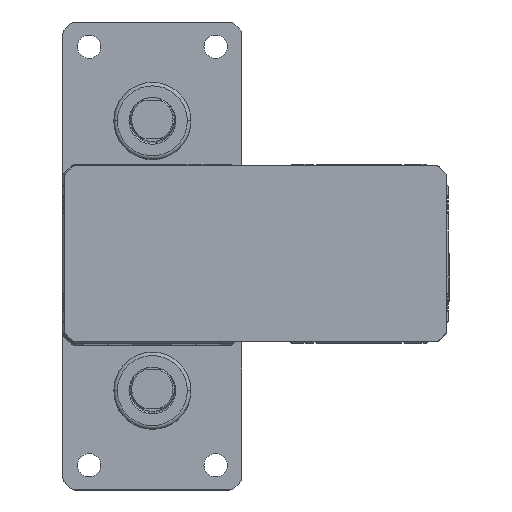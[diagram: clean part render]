
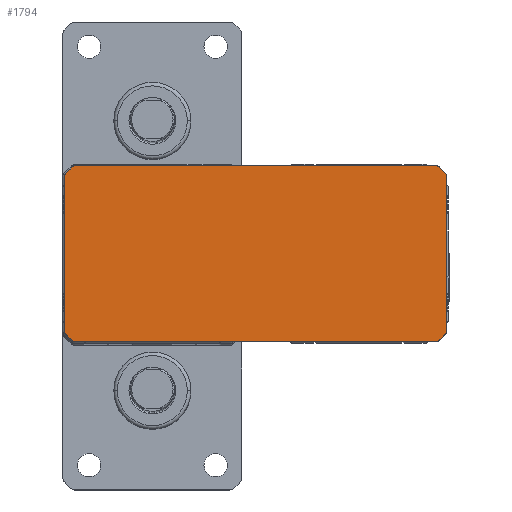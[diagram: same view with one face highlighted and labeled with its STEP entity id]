
A CAD part, top view. The second image highlights one B-rep face of the part: STEP entity #1794.
In plain terms, the highlighted planar face has unit normal (0, 0, 1).
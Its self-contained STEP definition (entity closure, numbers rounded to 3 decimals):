
#105 = DIRECTION ( 'NONE',  ( 0., 0., 1. ) ) ;
#1016 = CARTESIAN_POINT ( 'NONE',  ( 103., -32., 444. ) ) ;
#1794 = ADVANCED_FACE ( 'NONE', ( #52400 ), #22391, .T. ) ;
#2366 = CARTESIAN_POINT ( 'NONE',  ( -30.5, -28., 444. ) ) ;
#2871 = EDGE_CURVE ( 'NONE', #46423, #24328, #43449, .T. ) ;
#3409 = ORIENTED_EDGE ( 'NONE', *, *, #6921, .T. ) ;
#3451 = DIRECTION ( 'NONE',  ( 0., 0., 1. ) ) ;
#3771 = VERTEX_POINT ( 'NONE', #23922 ) ;
#3988 = CARTESIAN_POINT ( 'NONE',  ( 104.061, -31.561, 444. ) ) ;
#4126 = CIRCLE ( 'NONE', #31451, 1.5 ) ;
#4745 = LINE ( 'NONE', #6274, #14420 ) ;
#6274 = CARTESIAN_POINT ( 'NONE',  ( -29.061, 31.561, 444. ) ) ;
#6385 = ORIENTED_EDGE ( 'NONE', *, *, #48585, .T. ) ;
#6554 = DIRECTION ( 'NONE',  ( 1., 0., 0. ) ) ;
#6828 = ORIENTED_EDGE ( 'NONE', *, *, #16491, .T. ) ;
#6921 = EDGE_CURVE ( 'NONE', #17654, #15988, #50007, .T. ) ;
#7110 = DIRECTION ( 'NONE',  ( 1., 0., 0. ) ) ;
#7415 = CARTESIAN_POINT ( 'NONE',  ( 103., 32., 444. ) ) ;
#8200 = EDGE_CURVE ( 'NONE', #51385, #20690, #51838, .T. ) ;
#8545 = VERTEX_POINT ( 'NONE', #42353 ) ;
#8586 = CARTESIAN_POINT ( 'NONE',  ( -28., 32., 444. ) ) ;
#9230 = VECTOR ( 'NONE', #32350, 1000. ) ;
#10336 = CIRCLE ( 'NONE', #43043, 1.5 ) ;
#10474 = EDGE_CURVE ( 'NONE', #3771, #51385, #29094, .T. ) ;
#10666 = CIRCLE ( 'NONE', #33426, 1.5 ) ;
#11113 = EDGE_CURVE ( 'NONE', #32959, #37843, #10666, .T. ) ;
#11172 = ORIENTED_EDGE ( 'NONE', *, *, #20611, .T. ) ;
#11358 = ORIENTED_EDGE ( 'NONE', *, *, #44677, .T. ) ;
#11688 = EDGE_CURVE ( 'NONE', #24328, #38175, #4126, .T. ) ;
#12054 = VECTOR ( 'NONE', #27439, 1000. ) ;
#12243 = CARTESIAN_POINT ( 'NONE',  ( 106.561, -29.061, 444. ) ) ;
#12587 = AXIS2_PLACEMENT_3D ( 'NONE', #19138, #47101, #23223 ) ;
#13348 = LINE ( 'NONE', #39319, #15922 ) ;
#13724 = CARTESIAN_POINT ( 'NONE',  ( -30.5, -28., 444. ) ) ;
#14204 = VECTOR ( 'NONE', #49316, 1000. ) ;
#14420 = VECTOR ( 'NONE', #22680, 1000. ) ;
#14527 = AXIS2_PLACEMENT_3D ( 'NONE', #22666, #50614, #26701 ) ;
#14750 = CARTESIAN_POINT ( 'NONE',  ( -31.561, -29.061, 444. ) ) ;
#15648 = DIRECTION ( 'NONE',  ( 0., 0., 1. ) ) ;
#15714 = CARTESIAN_POINT ( 'NONE',  ( -31.561, -29.061, 444. ) ) ;
#15922 = VECTOR ( 'NONE', #7110, 1000. ) ;
#15988 = VERTEX_POINT ( 'NONE', #24404 ) ;
#16441 = CARTESIAN_POINT ( 'NONE',  ( -28., 30.5, 444. ) ) ;
#16491 = EDGE_CURVE ( 'NONE', #21159, #46423, #21344, .T. ) ;
#16551 = EDGE_CURVE ( 'NONE', #8545, #17944, #49471, .T. ) ;
#16693 = VECTOR ( 'NONE', #38884, 1000. ) ;
#16769 = VERTEX_POINT ( 'NONE', #21678 ) ;
#16834 = DIRECTION ( 'NONE',  ( 0., 0., 1. ) ) ;
#17654 = VERTEX_POINT ( 'NONE', #42388 ) ;
#17725 = ORIENTED_EDGE ( 'NONE', *, *, #36818, .T. ) ;
#17944 = VERTEX_POINT ( 'NONE', #12243 ) ;
#17978 = LINE ( 'NONE', #21364, #14204 ) ;
#17997 = CARTESIAN_POINT ( 'NONE',  ( 103., 32., 444. ) ) ;
#18581 = CIRCLE ( 'NONE', #31303, 1.5 ) ;
#19138 = CARTESIAN_POINT ( 'NONE',  ( 103., -30.5, 444. ) ) ;
#19486 = EDGE_CURVE ( 'NONE', #31380, #8545, #46476, .T. ) ;
#20456 = DIRECTION ( 'NONE',  ( 0., 1., 0. ) ) ;
#20507 = DIRECTION ( 'NONE',  ( 1., 0., 0. ) ) ;
#20560 = CARTESIAN_POINT ( 'NONE',  ( -29.061, -31.561, 444. ) ) ;
#20611 = EDGE_CURVE ( 'NONE', #38175, #17654, #4745, .T. ) ;
#20690 = VERTEX_POINT ( 'NONE', #39196 ) ;
#21159 = VERTEX_POINT ( 'NONE', #38641 ) ;
#21344 = CIRCLE ( 'NONE', #39000, 1.5 ) ;
#21364 = CARTESIAN_POINT ( 'NONE',  ( -32., 28., 444. ) ) ;
#21678 = CARTESIAN_POINT ( 'NONE',  ( -32., -28., 444. ) ) ;
#22391 = PLANE ( 'NONE',  #23826 ) ;
#22666 = CARTESIAN_POINT ( 'NONE',  ( -30.5, 28., 444. ) ) ;
#22680 = DIRECTION ( 'NONE',  ( -0.707, -0.707, 0. ) ) ;
#23223 = DIRECTION ( 'NONE',  ( 1., 0., 0. ) ) ;
#23460 = ORIENTED_EDGE ( 'NONE', *, *, #24307, .T. ) ;
#23514 = VECTOR ( 'NONE', #50034, 1000. ) ;
#23826 = AXIS2_PLACEMENT_3D ( 'NONE', #13724, #28728, #29068 ) ;
#23922 = CARTESIAN_POINT ( 'NONE',  ( 107., -28., 444. ) ) ;
#24307 = EDGE_CURVE ( 'NONE', #17944, #3771, #18581, .T. ) ;
#24328 = VERTEX_POINT ( 'NONE', #8586 ) ;
#24404 = CARTESIAN_POINT ( 'NONE',  ( -32., 28., 444. ) ) ;
#24586 = CARTESIAN_POINT ( 'NONE',  ( 105.5, -28., 444. ) ) ;
#26192 = CARTESIAN_POINT ( 'NONE',  ( 107., 28., 444. ) ) ;
#26701 = DIRECTION ( 'NONE',  ( 1., 0., 0. ) ) ;
#27439 = DIRECTION ( 'NONE',  ( -0.707, 0.707, 0. ) ) ;
#27863 = CARTESIAN_POINT ( 'NONE',  ( 103., 30.5, 444. ) ) ;
#28540 = CARTESIAN_POINT ( 'NONE',  ( 107., -28., 444. ) ) ;
#28620 = DIRECTION ( 'NONE',  ( 1., 0., 0. ) ) ;
#28728 = DIRECTION ( 'NONE',  ( 0., 0., 1. ) ) ;
#28956 = ORIENTED_EDGE ( 'NONE', *, *, #2871, .T. ) ;
#29068 = DIRECTION ( 'NONE',  ( 1., 0., 0. ) ) ;
#29094 = LINE ( 'NONE', #28540, #49048 ) ;
#29138 = CARTESIAN_POINT ( 'NONE',  ( -29.061, 31.561, 444. ) ) ;
#30805 = DIRECTION ( 'NONE',  ( 0., 0., 1. ) ) ;
#31151 = LINE ( 'NONE', #14750, #16693 ) ;
#31303 = AXIS2_PLACEMENT_3D ( 'NONE', #24586, #105, #28620 ) ;
#31380 = VERTEX_POINT ( 'NONE', #1016 ) ;
#31451 = AXIS2_PLACEMENT_3D ( 'NONE', #16441, #44407, #20507 ) ;
#31848 = DIRECTION ( 'NONE',  ( 1., 0., 0. ) ) ;
#32216 = ORIENTED_EDGE ( 'NONE', *, *, #8200, .T. ) ;
#32350 = DIRECTION ( 'NONE',  ( 0.707, 0.707, 0. ) ) ;
#32959 = VERTEX_POINT ( 'NONE', #20560 ) ;
#33426 = AXIS2_PLACEMENT_3D ( 'NONE', #40776, #16834, #44809 ) ;
#34364 = EDGE_CURVE ( 'NONE', #16769, #44185, #10336, .T. ) ;
#35398 = ORIENTED_EDGE ( 'NONE', *, *, #42746, .T. ) ;
#35740 = ORIENTED_EDGE ( 'NONE', *, *, #16551, .T. ) ;
#36818 = EDGE_CURVE ( 'NONE', #37843, #31380, #13348, .T. ) ;
#37843 = VERTEX_POINT ( 'NONE', #46913 ) ;
#38175 = VERTEX_POINT ( 'NONE', #29138 ) ;
#38226 = ORIENTED_EDGE ( 'NONE', *, *, #34364, .T. ) ;
#38475 = ORIENTED_EDGE ( 'NONE', *, *, #11113, .T. ) ;
#38641 = CARTESIAN_POINT ( 'NONE',  ( 104.061, 31.561, 444. ) ) ;
#38884 = DIRECTION ( 'NONE',  ( 0.707, -0.707, 0. ) ) ;
#39000 = AXIS2_PLACEMENT_3D ( 'NONE', #27863, #3451, #31848 ) ;
#39196 = CARTESIAN_POINT ( 'NONE',  ( 106.561, 29.061, 444. ) ) ;
#39319 = CARTESIAN_POINT ( 'NONE',  ( -28., -32., 444. ) ) ;
#39583 = CARTESIAN_POINT ( 'NONE',  ( 105.5, 28., 444. ) ) ;
#40500 = ORIENTED_EDGE ( 'NONE', *, *, #10474, .T. ) ;
#40669 = ORIENTED_EDGE ( 'NONE', *, *, #11688, .T. ) ;
#40776 = CARTESIAN_POINT ( 'NONE',  ( -28., -30.5, 444. ) ) ;
#42353 = CARTESIAN_POINT ( 'NONE',  ( 104.061, -31.561, 444. ) ) ;
#42388 = CARTESIAN_POINT ( 'NONE',  ( -31.561, 29.061, 444. ) ) ;
#42746 = EDGE_CURVE ( 'NONE', #15988, #16769, #17978, .T. ) ;
#42758 = LINE ( 'NONE', #51363, #12054 ) ;
#43043 = AXIS2_PLACEMENT_3D ( 'NONE', #2366, #30805, #6554 ) ;
#43449 = LINE ( 'NONE', #17997, #23514 ) ;
#43583 = DIRECTION ( 'NONE',  ( 1., 0., 0. ) ) ;
#44185 = VERTEX_POINT ( 'NONE', #15714 ) ;
#44403 = AXIS2_PLACEMENT_3D ( 'NONE', #39583, #15648, #43583 ) ;
#44407 = DIRECTION ( 'NONE',  ( 0., 0., 1. ) ) ;
#44677 = EDGE_CURVE ( 'NONE', #20690, #21159, #42758, .T. ) ;
#44809 = DIRECTION ( 'NONE',  ( 1., 0., 0. ) ) ;
#46423 = VERTEX_POINT ( 'NONE', #7415 ) ;
#46476 = CIRCLE ( 'NONE', #12587, 1.5 ) ;
#46913 = CARTESIAN_POINT ( 'NONE',  ( -28., -32., 444. ) ) ;
#47101 = DIRECTION ( 'NONE',  ( 0., 0., 1. ) ) ;
#47245 = EDGE_LOOP ( 'NONE', ( #38226, #6385, #38475, #17725, #51488, #35740, #23460, #40500, #32216, #11358, #6828, #28956, #40669, #11172, #3409, #35398 ) ) ;
#48585 = EDGE_CURVE ( 'NONE', #44185, #32959, #31151, .T. ) ;
#49048 = VECTOR ( 'NONE', #20456, 1000. ) ;
#49316 = DIRECTION ( 'NONE',  ( 0., -1., 0. ) ) ;
#49471 = LINE ( 'NONE', #3988, #9230 ) ;
#50007 = CIRCLE ( 'NONE', #14527, 1.5 ) ;
#50034 = DIRECTION ( 'NONE',  ( -1., 0., 0. ) ) ;
#50614 = DIRECTION ( 'NONE',  ( 0., 0., 1. ) ) ;
#51363 = CARTESIAN_POINT ( 'NONE',  ( 106.561, 29.061, 444. ) ) ;
#51385 = VERTEX_POINT ( 'NONE', #26192 ) ;
#51488 = ORIENTED_EDGE ( 'NONE', *, *, #19486, .T. ) ;
#51838 = CIRCLE ( 'NONE', #44403, 1.5 ) ;
#52400 = FACE_OUTER_BOUND ( 'NONE', #47245, .T. ) ;
